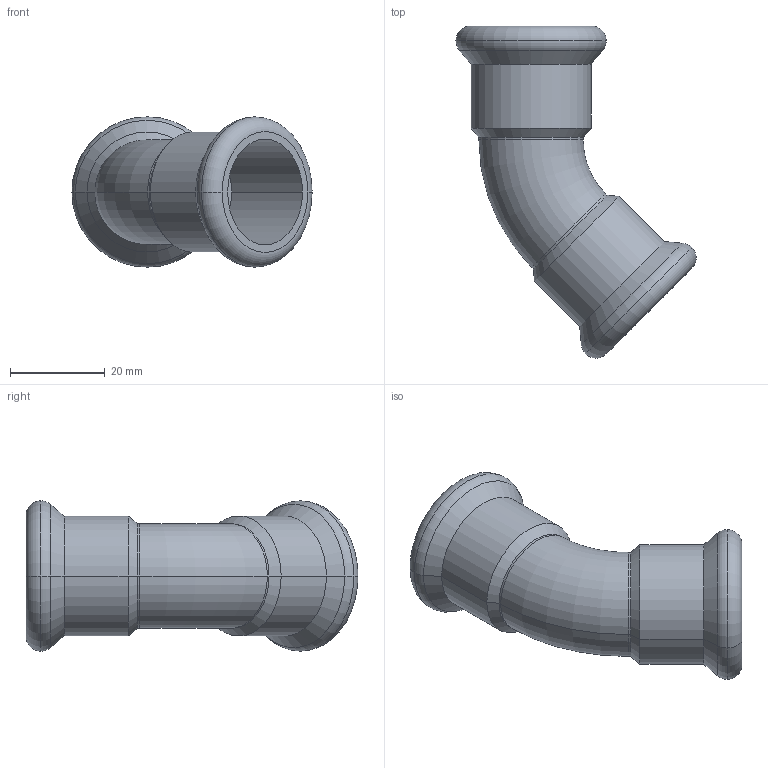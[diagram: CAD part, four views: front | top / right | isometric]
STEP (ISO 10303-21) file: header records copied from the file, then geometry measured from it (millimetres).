
FILE_DESCRIPTION(('CoCreate Modeling STEP Export'),'2;1');
FILE_NAME('C1413 22x22.stp','2014-11-11T16:48:26',(''),(''),'CoCreate Modeling STEP processor for AP214 (Solid Model)','CoCreate Modeling 17.00A 17-Jun-2010 (C) Parametric Technology GmbH','');
FILE_SCHEMA(('AUTOMOTIVE_DESIGN { 1 0 10303 214 1 1 1 1 }'));
Length unit declared in the file: millimetre
Products named in the file (2): C1413_22x22
Assembly tree (1 placements, depth 2):
  C1413_22x22
    C1413_22x22
Bounding box: 50.65 x 70 x 31.7 mm (x, y, z)
Volume: 10751.3 mm3; surface area: 11222.1 mm2
Topology: 1 solids, 1 shells, 46 faces, 96 edges, 56 vertices
Faces by surface type: cylinder 20, torus 12, cone 8, plane 6
Entity records: 1035 total; most frequent: ORIENTED_EDGE 192, DIRECTION 160, CARTESIAN_POINT 150, EDGE_CURVE 96, AXIS2_PLACEMENT_3D 66, VERTEX_POINT 56, EDGE_LOOP 52, FACE_OUTER_BOUND 46
